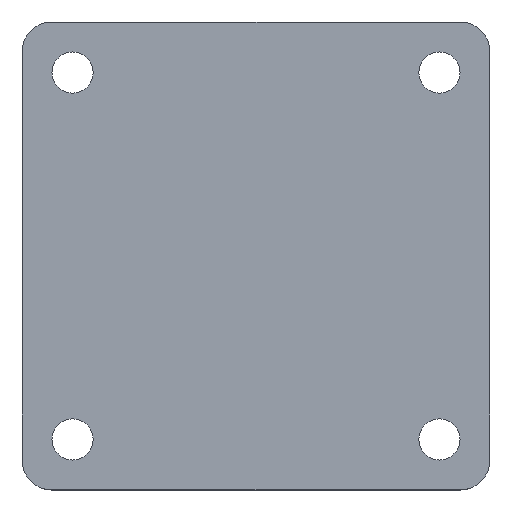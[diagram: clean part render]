
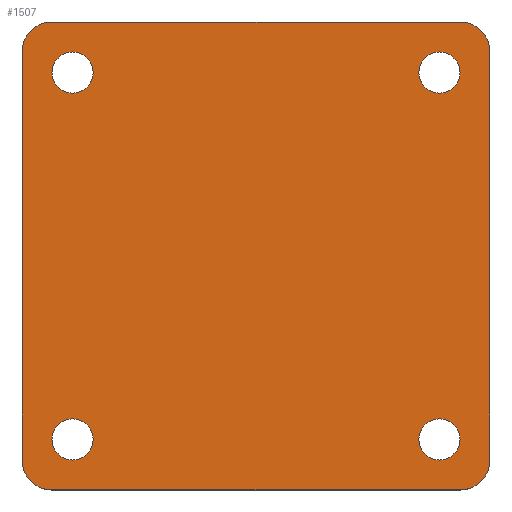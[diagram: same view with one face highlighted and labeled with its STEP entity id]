
A CAD part, top view. The second image highlights one B-rep face of the part: STEP entity #1507.
In plain terms, the highlighted planar face has unit normal (0, 0, 1).
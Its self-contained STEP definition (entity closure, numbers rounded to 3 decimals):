
#320=PLANE('',#5442);
#828=LINE('',#8149,#1177);
#829=LINE('',#8154,#1178);
#830=LINE('',#8158,#1179);
#831=LINE('',#8162,#1180);
#1177=VECTOR('',#6029,1.);
#1178=VECTOR('',#6032,1.);
#1179=VECTOR('',#6035,1.);
#1180=VECTOR('',#6038,1.);
#1507=ADVANCED_FACE('',(#1908,#1909,#1910,#1911,#1912),#320,.F.);
#1908=FACE_BOUND('',#2095,.T.);
#1909=FACE_BOUND('',#2096,.T.);
#1910=FACE_BOUND('',#2097,.T.);
#1911=FACE_BOUND('',#2098,.T.);
#1912=FACE_BOUND('',#2099,.T.);
#2095=EDGE_LOOP('',(#2702,#2703,#2704,#2705,#2706,#2707,#2708,#2709));
#2096=EDGE_LOOP('',(#2710));
#2097=EDGE_LOOP('',(#2711));
#2098=EDGE_LOOP('',(#2712));
#2099=EDGE_LOOP('',(#2713));
#2702=ORIENTED_EDGE('',*,*,#4665,.T.);
#2703=ORIENTED_EDGE('',*,*,#4666,.T.);
#2704=ORIENTED_EDGE('',*,*,#4667,.T.);
#2705=ORIENTED_EDGE('',*,*,#4668,.T.);
#2706=ORIENTED_EDGE('',*,*,#4669,.T.);
#2707=ORIENTED_EDGE('',*,*,#4670,.T.);
#2708=ORIENTED_EDGE('',*,*,#4671,.T.);
#2709=ORIENTED_EDGE('',*,*,#4672,.T.);
#2710=ORIENTED_EDGE('',*,*,#4673,.T.);
#2711=ORIENTED_EDGE('',*,*,#4674,.T.);
#2712=ORIENTED_EDGE('',*,*,#4675,.T.);
#2713=ORIENTED_EDGE('',*,*,#4676,.T.);
#4134=VERTEX_POINT('',#8150);
#4135=VERTEX_POINT('',#8151);
#4136=VERTEX_POINT('',#8153);
#4137=VERTEX_POINT('',#8155);
#4138=VERTEX_POINT('',#8157);
#4139=VERTEX_POINT('',#8159);
#4140=VERTEX_POINT('',#8161);
#4141=VERTEX_POINT('',#8163);
#4142=VERTEX_POINT('',#8166);
#4143=VERTEX_POINT('',#8168);
#4144=VERTEX_POINT('',#8170);
#4145=VERTEX_POINT('',#8172);
#4665=EDGE_CURVE('',#4134,#4135,#828,.T.);
#4666=EDGE_CURVE('',#4135,#4136,#5253,.T.);
#4667=EDGE_CURVE('',#4136,#4137,#829,.T.);
#4668=EDGE_CURVE('',#4137,#4138,#5254,.T.);
#4669=EDGE_CURVE('',#4138,#4139,#830,.T.);
#4670=EDGE_CURVE('',#4139,#4140,#5255,.T.);
#4671=EDGE_CURVE('',#4140,#4141,#831,.T.);
#4672=EDGE_CURVE('',#4141,#4134,#5256,.T.);
#4673=EDGE_CURVE('',#4142,#4142,#5257,.T.);
#4674=EDGE_CURVE('',#4143,#4143,#5258,.T.);
#4675=EDGE_CURVE('',#4144,#4144,#5259,.T.);
#4676=EDGE_CURVE('',#4145,#4145,#5260,.T.);
#5253=CIRCLE('',#5434,8.);
#5254=CIRCLE('',#5435,8.);
#5255=CIRCLE('',#5436,8.);
#5256=CIRCLE('',#5437,8.);
#5257=CIRCLE('',#5438,5.5);
#5258=CIRCLE('',#5439,5.5);
#5259=CIRCLE('',#5440,5.5);
#5260=CIRCLE('',#5441,5.5);
#5434=AXIS2_PLACEMENT_3D('',#8152,#6030,#6031);
#5435=AXIS2_PLACEMENT_3D('',#8156,#6033,#6034);
#5436=AXIS2_PLACEMENT_3D('',#8160,#6036,#6037);
#5437=AXIS2_PLACEMENT_3D('',#8164,#6039,#6040);
#5438=AXIS2_PLACEMENT_3D('',#8165,#6041,#6042);
#5439=AXIS2_PLACEMENT_3D('',#8167,#6043,#6044);
#5440=AXIS2_PLACEMENT_3D('',#8169,#6045,#6046);
#5441=AXIS2_PLACEMENT_3D('',#8171,#6047,#6048);
#5442=AXIS2_PLACEMENT_3D('',#8173,#6049,#6050);
#6029=DIRECTION('',(1.,0.,0.));
#6030=DIRECTION('',(0.,0.,1.));
#6031=DIRECTION('',(0.,1.,0.));
#6032=DIRECTION('',(0.,1.,0.));
#6033=DIRECTION('',(0.,0.,1.));
#6034=DIRECTION('',(0.,1.,0.));
#6035=DIRECTION('',(-1.,0.,0.));
#6036=DIRECTION('',(0.,0.,1.));
#6037=DIRECTION('',(0.,1.,0.));
#6038=DIRECTION('',(0.,-1.,0.));
#6039=DIRECTION('',(0.,0.,1.));
#6040=DIRECTION('',(0.,1.,0.));
#6041=DIRECTION('',(0.,0.,-1.));
#6042=DIRECTION('',(0.,1.,0.));
#6043=DIRECTION('',(0.,0.,-1.));
#6044=DIRECTION('',(0.,1.,0.));
#6045=DIRECTION('',(0.,0.,-1.));
#6046=DIRECTION('',(0.,1.,0.));
#6047=DIRECTION('',(0.,0.,-1.));
#6048=DIRECTION('',(0.,1.,0.));
#6049=DIRECTION('',(0.,0.,-1.));
#6050=DIRECTION('',(0.,1.,0.));
#8149=CARTESIAN_POINT('',(-62.5,-62.5,0.));
#8150=CARTESIAN_POINT('',(-54.5,-62.5,0.));
#8151=CARTESIAN_POINT('',(54.5,-62.5,0.));
#8152=CARTESIAN_POINT('',(54.5,-54.5,0.));
#8153=CARTESIAN_POINT('',(62.5,-54.5,0.));
#8154=CARTESIAN_POINT('',(62.5,-62.5,0.));
#8155=CARTESIAN_POINT('',(62.5,54.5,0.));
#8156=CARTESIAN_POINT('',(54.5,54.5,0.));
#8157=CARTESIAN_POINT('',(54.5,62.5,0.));
#8158=CARTESIAN_POINT('',(62.5,62.5,0.));
#8159=CARTESIAN_POINT('',(-54.5,62.5,0.));
#8160=CARTESIAN_POINT('',(-54.5,54.5,0.));
#8161=CARTESIAN_POINT('',(-62.5,54.5,0.));
#8162=CARTESIAN_POINT('',(-62.5,62.5,0.));
#8163=CARTESIAN_POINT('',(-62.5,-54.5,0.));
#8164=CARTESIAN_POINT('',(-54.5,-54.5,0.));
#8165=CARTESIAN_POINT('',(49.,-49.,0.));
#8166=CARTESIAN_POINT('',(49.,-43.5,0.));
#8167=CARTESIAN_POINT('',(-49.,-49.,0.));
#8168=CARTESIAN_POINT('',(-49.,-43.5,0.));
#8169=CARTESIAN_POINT('',(-49.,49.,0.));
#8170=CARTESIAN_POINT('',(-49.,54.5,0.));
#8171=CARTESIAN_POINT('',(49.,49.,0.));
#8172=CARTESIAN_POINT('',(49.,54.5,0.));
#8173=CARTESIAN_POINT('',(49.,-49.,0.));
